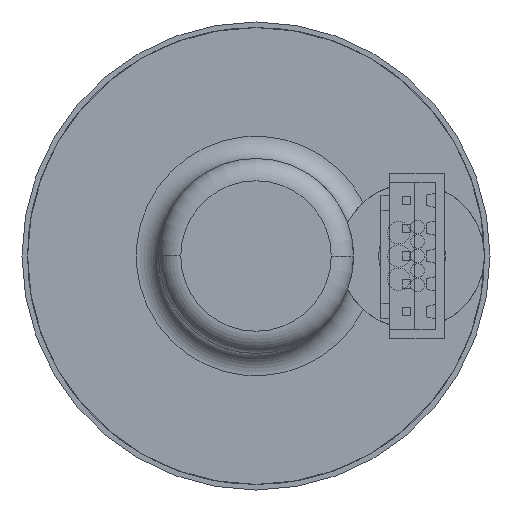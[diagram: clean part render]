
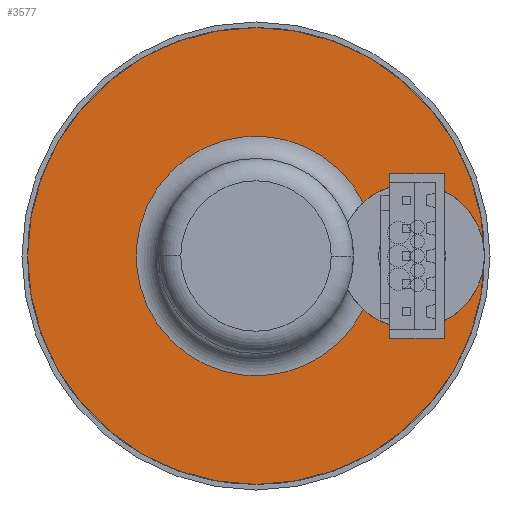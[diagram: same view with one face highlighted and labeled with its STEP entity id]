
A CAD part, front view. The second image highlights one B-rep face of the part: STEP entity #3577.
In plain terms, the highlighted planar face has unit normal (0, -1, 0).
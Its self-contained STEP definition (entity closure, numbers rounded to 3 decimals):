
#1094=CARTESIAN_POINT('',(0.,1.4,0.));
#1095=DIRECTION('',(0.,-1.,0.));
#1096=DIRECTION('',(-1.,0.,0.));
#1097=AXIS2_PLACEMENT_3D('',#1094,#1095,#1096);
#1199=CARTESIAN_POINT('',(0.,1.4,0.));
#1200=DIRECTION('',(0.,1.,0.));
#1201=DIRECTION('',(0.895,0.,-0.447));
#1202=AXIS2_PLACEMENT_3D('',#1199,#1200,#1201);
#1213=CARTESIAN_POINT('',(9.618,1.4,-4.801));
#1220=CARTESIAN_POINT('',(9.618,1.4,4.801));
#1231=CARTESIAN_POINT('',(14.,1.4,0.));
#1232=DIRECTION('',(0.,1.,0.));
#1233=DIRECTION('',(-0.674,0.,0.739));
#1234=AXIS2_PLACEMENT_3D('',#1231,#1232,#1233);
#1236=CARTESIAN_POINT('',(14.,1.4,0.));
#1237=DIRECTION('',(0.,1.,0.));
#1238=DIRECTION('',(1.,0.,0.));
#1239=AXIS2_PLACEMENT_3D('',#1236,#1237,#1238);
#1543=CARTESIAN_POINT('',(0.,1.4,0.));
#1544=DIRECTION('',(0.,1.,0.));
#1545=DIRECTION('',(-1.,0.,0.));
#1546=AXIS2_PLACEMENT_3D('',#1543,#1544,#1545);
#1680=CARTESIAN_POINT('',(-20.5,1.4,0.));
#1681=VERTEX_POINT('',#1680);
#1682=CARTESIAN_POINT('',(20.5,1.4,0.));
#1683=VERTEX_POINT('',#1682);
#1870=VERTEX_POINT('',#1213);
#1871=VERTEX_POINT('',#1220);
#3561=CARTESIAN_POINT('',(0.,1.4,0.));
#3562=DIRECTION('',(0.,-1.,0.));
#3563=DIRECTION('',(-1.,0.,0.));
#3564=AXIS2_PLACEMENT_3D('',#3561,#3562,#3563);
#3565=PLANE('',#3564);
#3567=ORIENTED_EDGE('',*,*,#3566,.F.);
#3569=ORIENTED_EDGE('',*,*,#3568,.F.);
#3570=ORIENTED_EDGE('',*,*,#3551,.F.);
#3572=ORIENTED_EDGE('',*,*,#3571,.T.);
#3574=ORIENTED_EDGE('',*,*,#3573,.F.);
#3575=EDGE_LOOP('',(#3567,#3569,#3570,#3572,#3574));
#3576=FACE_OUTER_BOUND('',#3575,.F.);
#3577=ADVANCED_FACE('',(#3576),#3565,.T.);
#1098=CIRCLE('',#1097,20.5);
#1203=CIRCLE('',#1202,10.75);
#1235=CIRCLE('',#1234,6.5);
#1240=CIRCLE('',#1239,6.5);
#1547=CIRCLE('',#1546,20.5);
#3551=EDGE_CURVE('',#1681,#1683,#1098,.T.);
#3566=EDGE_CURVE('',#1870,#1871,#1203,.T.);
#3568=EDGE_CURVE('',#1683,#1870,#1240,.T.);
#3571=EDGE_CURVE('',#1681,#1683,#1547,.T.);
#3573=EDGE_CURVE('',#1871,#1683,#1235,.T.);
